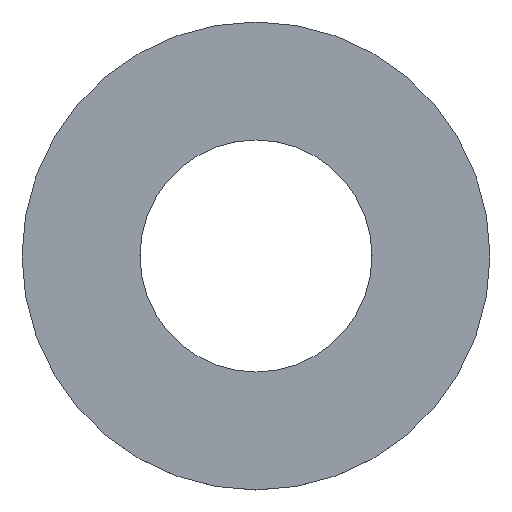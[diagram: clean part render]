
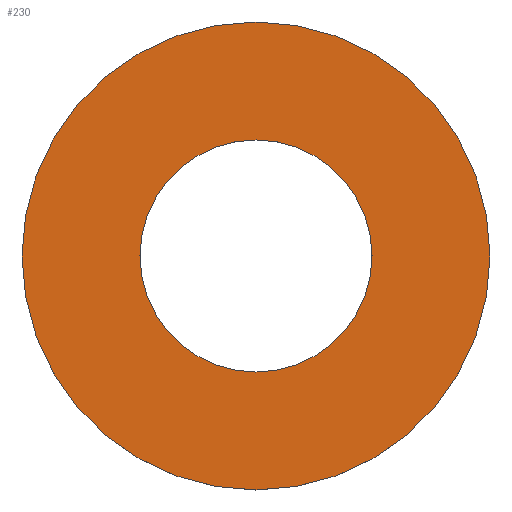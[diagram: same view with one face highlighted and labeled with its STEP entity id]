
A CAD part, top view. The second image highlights one B-rep face of the part: STEP entity #230.
In plain terms, the highlighted planar face has unit normal (0, 0, 1).
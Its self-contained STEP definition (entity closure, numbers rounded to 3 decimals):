
#43 = CYLINDRICAL_SURFACE('',#44,6.);
#44 = AXIS2_PLACEMENT_3D('',#45,#46,#47);
#45 = CARTESIAN_POINT('',(0.,0.,178.));
#46 = DIRECTION('',(-0.,-0.,-1.));
#47 = DIRECTION('',(1.,0.,0.));
#164 = CYLINDRICAL_SURFACE('',#165,12.1);
#165 = AXIS2_PLACEMENT_3D('',#166,#167,#168);
#166 = CARTESIAN_POINT('',(0.,0.,177.25));
#167 = DIRECTION('',(0.,0.,1.));
#168 = DIRECTION('',(1.,0.,-0.));
#181 = VERTEX_POINT('',#182);
#182 = CARTESIAN_POINT('',(12.1,0.,178.));
#203 = EDGE_CURVE('',#181,#181,#204,.T.);
#204 = SURFACE_CURVE('',#205,(#210,#217),.PCURVE_S1.);
#205 = CIRCLE('',#206,12.1);
#206 = AXIS2_PLACEMENT_3D('',#207,#208,#209);
#207 = CARTESIAN_POINT('',(0.,0.,178.));
#208 = DIRECTION('',(0.,0.,1.));
#209 = DIRECTION('',(1.,0.,-0.));
#210 = PCURVE('',#164,#211);
#211 = DEFINITIONAL_REPRESENTATION('',(#212),#216);
#212 = LINE('',#213,#214);
#213 = CARTESIAN_POINT('',(0.,0.75));
#214 = VECTOR('',#215,1.);
#215 = DIRECTION('',(1.,0.));
#216 = ( GEOMETRIC_REPRESENTATION_CONTEXT(2) 
PARAMETRIC_REPRESENTATION_CONTEXT() REPRESENTATION_CONTEXT('2D SPACE',''
  ) );
#217 = PCURVE('',#218,#223);
#218 = PLANE('',#219);
#219 = AXIS2_PLACEMENT_3D('',#220,#221,#222);
#220 = CARTESIAN_POINT('',(0.,0.,178.));
#221 = DIRECTION('',(0.,0.,1.));
#222 = DIRECTION('',(1.,0.,-0.));
#223 = DEFINITIONAL_REPRESENTATION('',(#224),#228);
#224 = CIRCLE('',#225,12.1);
#225 = AXIS2_PLACEMENT_2D('',#226,#227);
#226 = CARTESIAN_POINT('',(0.,0.));
#227 = DIRECTION('',(1.,0.));
#228 = ( GEOMETRIC_REPRESENTATION_CONTEXT(2) 
PARAMETRIC_REPRESENTATION_CONTEXT() REPRESENTATION_CONTEXT('2D SPACE',''
  ) );
#230 = ADVANCED_FACE('',(#231,#234),#218,.T.);
#231 = FACE_BOUND('',#232,.T.);
#232 = EDGE_LOOP('',(#233));
#233 = ORIENTED_EDGE('',*,*,#203,.T.);
#234 = FACE_BOUND('',#235,.T.);
#235 = EDGE_LOOP('',(#236));
#236 = ORIENTED_EDGE('',*,*,#237,.F.);
#237 = EDGE_CURVE('',#238,#238,#240,.T.);
#238 = VERTEX_POINT('',#239);
#239 = CARTESIAN_POINT('',(6.,0.,178.));
#240 = SURFACE_CURVE('',#241,(#246,#253),.PCURVE_S1.);
#241 = CIRCLE('',#242,6.);
#242 = AXIS2_PLACEMENT_3D('',#243,#244,#245);
#243 = CARTESIAN_POINT('',(0.,0.,178.));
#244 = DIRECTION('',(0.,0.,1.));
#245 = DIRECTION('',(1.,0.,-0.));
#246 = PCURVE('',#218,#247);
#247 = DEFINITIONAL_REPRESENTATION('',(#248),#252);
#248 = CIRCLE('',#249,6.);
#249 = AXIS2_PLACEMENT_2D('',#250,#251);
#250 = CARTESIAN_POINT('',(0.,0.));
#251 = DIRECTION('',(1.,0.));
#252 = ( GEOMETRIC_REPRESENTATION_CONTEXT(2) 
PARAMETRIC_REPRESENTATION_CONTEXT() REPRESENTATION_CONTEXT('2D SPACE',''
  ) );
#253 = PCURVE('',#43,#254);
#254 = DEFINITIONAL_REPRESENTATION('',(#255),#259);
#255 = LINE('',#256,#257);
#256 = CARTESIAN_POINT('',(-0.,0.));
#257 = VECTOR('',#258,1.);
#258 = DIRECTION('',(-1.,0.));
#259 = ( GEOMETRIC_REPRESENTATION_CONTEXT(2) 
PARAMETRIC_REPRESENTATION_CONTEXT() REPRESENTATION_CONTEXT('2D SPACE',''
  ) );
